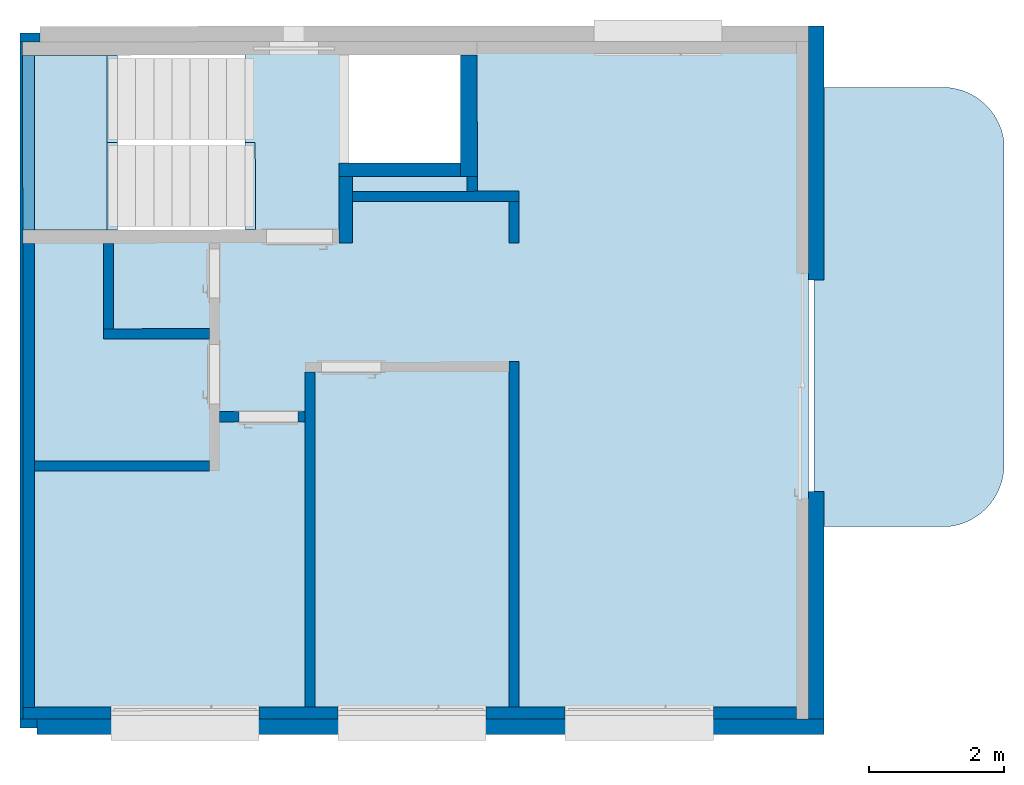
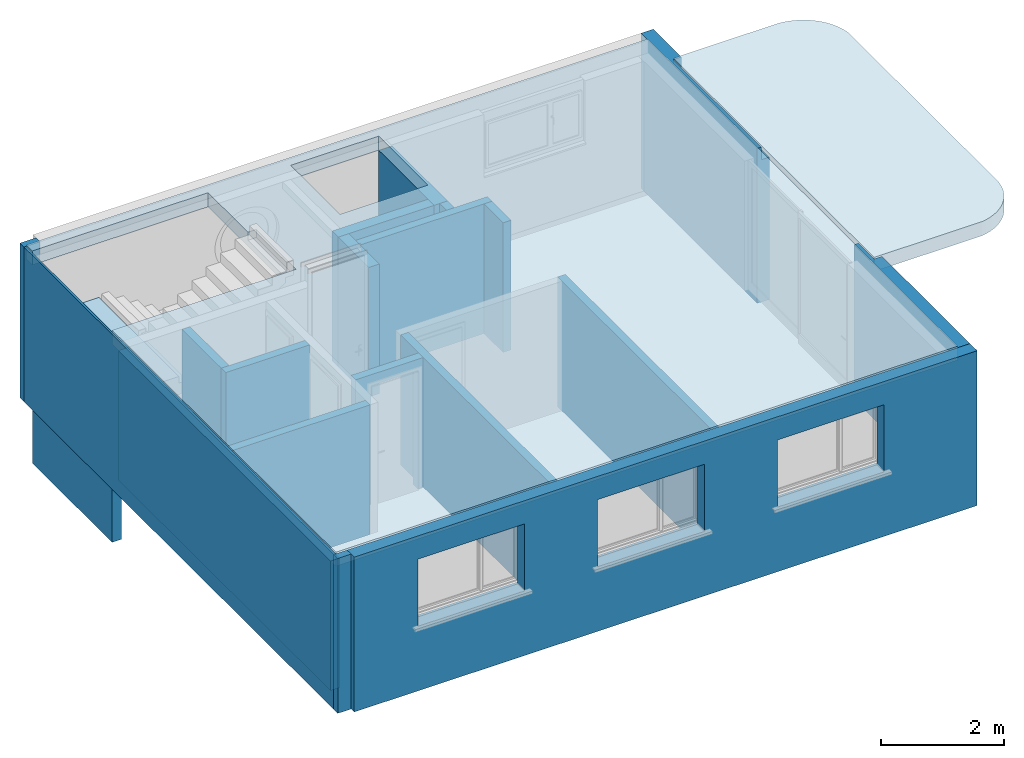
# One storey, part 1 of 9: 21 walls, 3 slabs, 12 openings.
"""IFC2X3 building model written with IfcOpenShell, lengths in metres."""

from ifc_helpers import new_model, entity, si_unit, converted_unit, derived_unit, direction, frame, frame_2d, origin, origin_with_axes, place, context, subcontext, project, spatial, polyline, rectangle, outline, extrude, clip, bounded_halfspace, faceted_brep, material, layer, layer_set, layer_usage, element, save


model = new_model("IFC2X3")

# Units and contexts
model_context = context("Model", 3, precision=1e-05, world=origin(), true_north=direction((0.772621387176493, -0.634867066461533)))
body_context = subcontext(model_context, "Body", "Model", "MODEL_VIEW")
ifc_project = project(units=[si_unit("LENGTHUNIT", "METRE"), si_unit("AREAUNIT", "SQUARE_METRE"), si_unit("VOLUMEUNIT", "CUBIC_METRE"), si_unit("MASSUNIT", "GRAM", prefix="KILO"), converted_unit("PLANEANGLEUNIT", "DEGREE", entity("IfcPlaneAngleMeasure", 0.0174532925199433), si_unit("PLANEANGLEUNIT", "RADIAN"), dimensions=[0, 0, 0, 0, 0, 0, 0]), derived_unit("THERMALTRANSMITTANCEUNIT", [(si_unit("POWERUNIT", "WATT"), 1), (si_unit("THERMODYNAMICTEMPERATUREUNIT", "KELVIN"), -1), (si_unit("LENGTHUNIT", "METRE"), -2)]), derived_unit("VOLUMETRICFLOWRATEUNIT", [(si_unit("LENGTHUNIT", "METRE"), 3), (converted_unit("TIMEUNIT", "hour", entity("IfcTimeMeasure", 3600.0), si_unit("TIMEUNIT", "SECOND"), dimensions=[0, 0, 1, 0, 0, 0, 0]), -1), (si_unit("LENGTHUNIT", "METRE"), -1)])], contexts=[model_context])

# Site, building, storey
site_placement = place(None, origin())
site = spatial("IfcSite", under=ifc_project, at=site_placement, Name="Modelle auf dem Nullpunkt", CompositionType="ELEMENT")
building_placement = place(site_placement, origin())
building = spatial("IfcBuilding", under=site, at=building_placement, Name="I", CompositionType="ELEMENT")
storey_placement = place(building_placement, origin())
storey = spatial("IfcBuildingStorey", under=building, at=storey_placement, Name="1.OG", CompositionType="ELEMENT", Elevation=0.0)

# Slab, openings
ifc_material_1 = material(Name="Béton")
slab_1_placement = place(storey_placement, frame((29.3670184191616, -0.65338574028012, 439.955)))
slab_1 = element("IfcSlab", 1, at=slab_1_placement, inside=storey, material=ifc_material_1, PredefinedType="FLOOR", context=body_context, shape_type="SweptSolid", body=[
    extrude(rectangle(XDim=1.4053348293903, YDim=2.5899999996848, at=frame_2d((-0.702209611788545, -1.29524829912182), x_axis=(-0.999999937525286, -0.000353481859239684))), frame((1.40533474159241, 2.59049659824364, 0.0), z_axis=(0.0, 0.0, 1.0), x_axis=(1.0, 0.0, 0.0)), (0.0, 0.0, 1.0), 0.36),
])
opening_1_placement = place(slab_1_placement, frame((1.25078809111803, 0.000441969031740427, 0.228336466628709)))
element("IfcOpeningElement", 2, at=opening_1_placement, cuts=slab_1, Name="Beton", ObjectType="Recess", context=body_context, shape_type="SweptSolid", body=[
    extrude(rectangle(XDim=0.15500446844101, YDim=1.29499999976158, at=frame_2d((0.0, 0.0), x_axis=(3.38549642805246e-10, -1.0))), frame((0.0777310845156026, 0.647527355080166, 6.17373972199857e-05), z_axis=(0.000796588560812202, 2.8157962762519e-07, 0.999999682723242), x_axis=(0.000353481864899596, -0.999999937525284, 0.0)), (0.0, -0.00079658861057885, 0.999999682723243), 0.131663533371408),
])
opening_2_placement = place(slab_1_placement, frame((1.25033033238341, 1.29544188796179, 0.131965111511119)))
element("IfcOpeningElement", 3, at=opening_2_placement, cuts=slab_1, Name="Beton", ObjectType="Recess", context=body_context, shape_type="SweptSolid", body=[
    extrude(rectangle(XDim=0.155004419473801, YDim=1.2949999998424, at=frame_2d((0.0, 0.0), x_axis=(-0.999999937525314, -0.000353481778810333))), frame((0.0777310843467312, 0.647527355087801, 0.0), z_axis=(0.0, 0.0, 1.0), x_axis=(1.0, 0.0, 0.0)), (0.0, 0.0, 1.0), 0.228034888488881),
])

# Slab
ifc_material_2 = material(Name="Béton")
slab_2_placement = place(storey_placement, frame((41.107187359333, -5.0542355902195, 441.39)))
element("IfcSlab", 4, at=slab_2_placement, inside=storey, material=ifc_material_2, PredefinedType="FLOOR", context=body_context, shape_type="SweptSolid", body=[
    extrude(outline(polyline([(2.8220055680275, 0.841745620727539), (2.82028137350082, 5.719491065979), (2.81380840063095, 5.76026651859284), (2.8055125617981, 5.8007105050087), (2.79541056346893, 5.84074157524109), (2.78352274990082, 5.88027911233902), (2.76987306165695, 5.91924349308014), (2.75448898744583, 5.95755624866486), (2.73740150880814, 5.99514022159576), (2.7186450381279, 6.03191972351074), (2.69825734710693, 6.06782068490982), (2.67627949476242, 6.10277080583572), (2.65275574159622, 6.13669970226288), (2.62773346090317, 6.16953904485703), (2.6012630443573, 6.20122270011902), (2.57339779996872, 6.23168686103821), (2.54419384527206, 6.26087017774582), (2.51370999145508, 6.28871387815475), (2.48200763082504, 6.3151618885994), (2.44915060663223, 6.34016094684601), (2.41520508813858, 6.36366070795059), (2.38023943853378, 6.3856138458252), (2.34432407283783, 6.40597615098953), (2.30753132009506, 6.424706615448), (2.26993527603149, 6.44176751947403), (2.23161165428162, 6.45712450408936), (2.19263763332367, 6.47074664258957), (2.15309170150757, 6.48260650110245), (2.11305349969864, 6.49268019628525), (2.07260365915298, 6.50094744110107), (1.97925102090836, 6.51569922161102), (0.0, 6.51499959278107), (0.00230293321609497, 0.0), (2.02579741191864, 0.000715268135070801), (2.06657286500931, 0.00718824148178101), (2.10701685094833, 0.0154840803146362), (2.14704792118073, 0.0255860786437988), (2.18658545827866, 0.0374738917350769), (2.22554983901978, 0.0511235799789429), (2.26386259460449, 0.0665076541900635), (2.30144656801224, 0.0835951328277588), (2.33822606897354, 0.102351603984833), (2.37412703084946, 0.122739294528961), (2.40907715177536, 0.144717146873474), (2.44300604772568, 0.168240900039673), (2.47584539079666, 0.193263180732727), (2.50752904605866, 0.219733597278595), (2.53799320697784, 0.247598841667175), (2.56717652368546, 0.276802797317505), (2.59502022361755, 0.30728664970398), (2.62146823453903, 0.338989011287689), (2.64646729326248, 0.371846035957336), (2.66996705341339, 0.405791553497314), (2.69192019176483, 0.440757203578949), (2.71228249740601, 0.476672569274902), (2.73101296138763, 0.513465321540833), (2.7480738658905, 0.551061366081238), (2.76343085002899, 0.589384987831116), (2.77705298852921, 0.628359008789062), (2.78891284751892, 0.667904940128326), (2.79898654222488, 0.707943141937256), (2.80725378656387, 0.748392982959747), (2.8220055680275, 0.841745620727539)])), origin_with_axes(), (0.0, 0.0, 1.0), 0.28),
])

# Slab, openings
ifc_material_3 = material(Name="Béton")
slab_3_placement = place(storey_placement, frame((29.3669477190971, -7.91338528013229, 441.39)))
slab_3 = element("IfcSlab", 5, at=slab_3_placement, inside=storey, material=ifc_material_3, PredefinedType="FLOOR", context=body_context, shape_type="SweptSolid", body=[
    extrude(outline(polyline([(0.0, 10.0499993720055), (0.00355249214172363, 0.0), (11.6635517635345, 0.00412159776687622), (11.6599992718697, 10.0541209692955), (0.0, 10.0499993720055)]), holes=[polyline([(4.84507039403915, 9.85171200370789), (6.49507029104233, 9.85229524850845), (6.49563586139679, 8.25229534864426), (4.84563596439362, 8.25171210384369), (4.84507039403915, 9.85171200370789)])]), origin_with_axes(), (0.0, 0.0, 1.0), 0.28),
])
opening_3_placement = place(slab_3_placement, frame((0.000468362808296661, 7.25999954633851, 0.0)))
element("IfcOpeningElement", 6, at=opening_3_placement, cuts=slab_3, Name="Deckendurchbruch", ObjectType="Opening", context=body_context, shape_type="SweptSolid", body=[
    extrude(rectangle(XDim=3.29539717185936, YDim=1.46499999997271, at=frame_2d((0.0, 0.0), x_axis=(-0.999999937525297, -0.000353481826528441))), frame((1.64795740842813, 0.733082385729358, 0.0), z_axis=(0.0, 0.0, 1.0), x_axis=(1.0, 0.0, 0.0)), (0.0, 0.0, 1.0), 0.28),
])
opening_4_placement = place(slab_3_placement, frame((7.06961154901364e-05, 8.72499945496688, 0.0)))
element("IfcOpeningElement", 7, at=opening_4_placement, cuts=slab_3, Name="Deckendurchbruch", ObjectType="Opening", context=body_context, shape_type="SweptSolid", body=[
    extrude(rectangle(XDim=3.29539717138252, YDim=1.1249999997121, at=frame_2d((0.0, 0.0), x_axis=(-0.999999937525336, -0.000353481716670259))), frame((1.64789731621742, 0.563082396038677, 0.0), z_axis=(0.0, 0.0, 1.0), x_axis=(1.0, 0.0, 0.0)), (0.0, 0.0, 1.0), 0.28),
])
opening_5_placement = place(slab_3_placement, frame((3.29591418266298, 7.26116440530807, 0.122012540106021)))
element("IfcOpeningElement", 8, at=opening_5_placement, cuts=slab_3, Name="Beton", ObjectType="Recess", context=body_context, shape_type="SweptSolid", body=[
    extrude(rectangle(XDim=0.155000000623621, YDim=1.29499999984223, at=frame_2d((0.0, 0.0), x_axis=(-0.999999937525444, -0.000353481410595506))), frame((0.0777288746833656, 0.647527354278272, 0.0), z_axis=(0.0, 0.0, 1.0), x_axis=(1.0, 0.0, 0.0)), (0.0, 0.0, 1.0), 0.157987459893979),
])

# Walls
ifc_material_4 = material(Name="Béton")
ifc_layer_1 = layer(ifc_material_4, 0.249999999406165)
ifc_layer_set_1 = layer_set([ifc_layer_1])
ifc_layer_usage_1 = layer_usage(ifc_layer_set_1, "AXIS2", "POSITIVE", -4.22370471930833e-16)
wall_1_placement = place(storey_placement, frame((36.1126542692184, 0.138998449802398, 438.82), z_axis=(0.0, 0.0, 1.0), x_axis=(-0.000353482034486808, 0.999999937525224, 0.0)))
element("IfcWallStandardCase", 9, at=wall_1_placement, inside=storey, material=ifc_layer_usage_1, Name="Betonwand", context=body_context, shape_type="SweptSolid", body=[
    extrude(rectangle(XDim=1.79999999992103, YDim=0.249999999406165, at=frame_2d((0.899999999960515, 0.124999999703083), x_axis=(1.0, 0.0))), origin_with_axes(), (0.0, 0.0, 1.0), 2.57),
])
ifc_material_5 = material(Name="Béton")
ifc_layer_2 = layer(ifc_material_5, 0.199999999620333)
ifc_layer_set_2 = layer_set([ifc_layer_2])
ifc_layer_usage_2 = layer_usage(ifc_layer_set_2, "AXIS2", "POSITIVE", -9.19403442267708e-17)
wall_2_placement = place(storey_placement, frame((35.8625835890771, 0.338910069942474, 438.82), z_axis=(0.0, 0.0, 1.0), x_axis=(-0.999999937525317, -0.000353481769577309, 0.0)))
element("IfcWallStandardCase", 10, at=wall_2_placement, inside=storey, material=ifc_layer_usage_2, Name="Betonwand", context=body_context, shape_type="SweptSolid", body=[
    extrude(rectangle(XDim=1.79999999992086, YDim=0.199999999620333, at=frame_2d((0.89999999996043, 0.0999999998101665), x_axis=(1.0, 0.0))), origin_with_axes(), (0.0, 0.0, 1.0), 2.57),
])
ifc_material_6 = material(Name="Brique")
ifc_layer_3 = layer(ifc_material_6, 0.15000000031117)
ifc_layer_set_3 = layer_set([ifc_layer_3])
ifc_layer_usage_3 = layer_usage(ifc_layer_set_3, "AXIS2", "POSITIVE", -7.34065586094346e-17)
wall_3_placement = place(storey_placement, frame((36.7327319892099, -0.0807823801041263, 438.82), z_axis=(0.0, 0.0, 1.0), x_axis=(-0.999999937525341, -0.000353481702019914, 0.0)))
element("IfcWallStandardCase", 11, at=wall_3_placement, inside=storey, material=ifc_layer_usage_3, context=body_context, shape_type="SweptSolid", body=[
    extrude(rectangle(XDim=2.46999999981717, YDim=0.15000000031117, at=frame_2d((1.23499999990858, 0.075000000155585), x_axis=(1.0, 0.0))), origin_with_axes(), (0.0, 0.0, 1.0), 2.57),
])
ifc_material_7 = material(Name="Brique")
ifc_layer_4 = layer(ifc_material_7, 0.15000000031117)
ifc_layer_set_4 = layer_set([ifc_layer_4])
ifc_layer_usage_4 = layer_usage(ifc_layer_set_4, "AXIS2", "POSITIVE", -4.3481201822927e-17)
wall_4_placement = place(storey_placement, frame((36.112732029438, -0.081001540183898, 438.82), z_axis=(0.0, 0.0, 1.0), x_axis=(-0.00035347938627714, 0.99999993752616, 0.0)))
element("IfcWallStandardCase", 12, at=wall_4_placement, inside=storey, material=ifc_layer_usage_4, context=body_context, shape_type="SweptSolid", body=[
    extrude(rectangle(XDim=0.21999999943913, YDim=0.15000000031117, at=frame_2d((0.109999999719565, 0.075000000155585), x_axis=(1.0, 0.0))), origin_with_axes(), (0.0, 0.0, 1.0), 2.57),
])
ifc_material_8 = material(Name="Béton")
ifc_layer_5 = layer(ifc_material_8, 0.200000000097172)
ifc_layer_set_5 = layer_set([ifc_layer_5])
ifc_layer_usage_5 = layer_usage(ifc_layer_set_5, "AXIS2", "POSITIVE", -2.33688068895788e-16)
wall_5_placement = place(storey_placement, frame((34.0626543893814, 0.138273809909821, 438.82), z_axis=(0.0, 0.0, 1.0), x_axis=(0.000353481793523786, -0.999999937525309, 0.0)))
element("IfcWallStandardCase", 13, at=wall_5_placement, inside=storey, material=ifc_layer_usage_5, Name="Betonwand", context=body_context, shape_type="SweptSolid", body=[
    extrude(rectangle(XDim=0.990000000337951, YDim=0.200000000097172, at=frame_2d((0.495000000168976, 0.100000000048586), x_axis=(1.0, 0.0))), origin_with_axes(), (0.0, 0.0, 1.0), 2.57),
])
ifc_material_9 = material(Name="Brique")
ifc_layer_6 = layer(ifc_material_9, 0.149999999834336)
ifc_layer_set_6 = layer_set([ifc_layer_6])
ifc_layer_usage_6 = layer_usage(ifc_layer_set_6, "AXIS2", "POSITIVE", -4.28268531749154e-16)
wall_6_placement = place(storey_placement, frame((36.5827850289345, -0.230835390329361, 438.82), z_axis=(0.0, 0.0, 1.0), x_axis=(0.000353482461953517, -0.999999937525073, 0.0)))
element("IfcWallStandardCase", 14, at=wall_6_placement, inside=storey, material=ifc_layer_usage_6, context=body_context, shape_type="SweptSolid", body=[
    extrude(rectangle(XDim=0.619999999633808, YDim=0.149999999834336, at=frame_2d((0.309999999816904, 0.0749999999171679), x_axis=(1.0, 0.0))), origin_with_axes(), (0.0, 0.0, 1.0), 2.57),
])
ifc_material_10 = material(Name="Isolation périphérique")
ifc_layer_7 = layer(ifc_material_10, 0.130000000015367)
ifc_layer_set_7 = layer_set([ifc_layer_7])
ifc_layer_usage_7 = layer_usage(ifc_layer_set_7, "AXIS2", "POSITIVE", -3.04754372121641e-16)
wall_7_placement = place(storey_placement, frame((29.3269477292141, 2.13659994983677, 438.57), z_axis=(0.0, 0.0, 1.0), x_axis=(0.999999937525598, 0.000353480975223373, 0.0)))
element("IfcWallStandardCase", 15, at=wall_7_placement, inside=storey, material=ifc_layer_usage_7, context=body_context, shape_type="SweptSolid", body=[
    extrude(rectangle(XDim=0.299999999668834, YDim=0.130000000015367, at=frame_2d((0.149999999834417, 0.0650000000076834), x_axis=(1.0, 0.0))), origin_with_axes(), (0.0, 0.0, 1.0), 3.07),
])
ifc_material_11 = material(Name="Brique")
ifc_layer_8 = layer(ifc_material_11, 0.150000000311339)
ifc_layer_set_8 = layer_set([ifc_layer_8])
ifc_layer_usage_8 = layer_usage(ifc_layer_set_8, "AXIS2", "POSITIVE", -8.40078874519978e-17)
wall_8_placement = place(storey_placement, frame((32.1384529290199, -2.12112780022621, 438.82), z_axis=(0.0, 0.0, 1.0), x_axis=(-0.999999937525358, -0.000353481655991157, 0.0)))
element("IfcWallStandardCase", 16, at=wall_8_placement, inside=storey, material=ifc_layer_usage_8, context=body_context, shape_type="SweptSolid", body=[
    extrude(rectangle(XDim=1.57500000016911, YDim=0.150000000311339, at=frame_2d((0.787500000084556, 0.0750000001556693), x_axis=(1.0, 0.0))), origin_with_axes(), (0.0, 0.0, 1.0), 2.57),
])
ifc_material_12 = material(Name="Brique")
ifc_layer_9 = layer(ifc_material_12, 0.149999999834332)
ifc_layer_set_9 = layer_set([ifc_layer_9])
ifc_layer_usage_9 = layer_usage(ifc_layer_set_9, "AXIS2", "POSITIVE", -2.27293288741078e-16)
wall_9_placement = place(storey_placement, frame((30.5630045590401, -0.852963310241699, 438.82), z_axis=(0.0, 0.0, 1.0), x_axis=(0.000353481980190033, -0.999999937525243, 0.0)))
element("IfcWallStandardCase", 17, at=wall_9_placement, inside=storey, material=ifc_layer_usage_9, context=body_context, shape_type="SweptSolid", body=[
    extrude(rectangle(XDim=1.268721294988, YDim=0.149999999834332, at=frame_2d((0.634360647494, 0.0749999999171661), x_axis=(1.0, 0.0))), origin_with_axes(), (0.0, 0.0, 1.0), 2.57),
])
ifc_material_13 = material(Name="Brique")
ifc_layer_10 = layer(ifc_material_13, 0.149999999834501)
ifc_layer_set_10 = layer_set([ifc_layer_10])
ifc_layer_usage_10 = layer_usage(ifc_layer_set_10, "AXIS2", "POSITIVE", 0.0)
wall_10_placement = place(storey_placement, frame((29.5441993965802, -4.233323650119, 438.82), z_axis=(0.0, 0.0, 1.0), x_axis=(0.999999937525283, 0.000353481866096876, 0.0)))
element("IfcWallStandardCase", 18, at=wall_10_placement, inside=storey, material=ifc_layer_usage_10, context=body_context, shape_type="SweptSolid", body=[
    extrude(rectangle(XDim=2.5949999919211, YDim=0.149999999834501, at=frame_2d((1.29749999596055, 0.0749999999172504), x_axis=(1.0, 0.0))), origin_with_axes(), (0.0, 0.0, 1.0), 2.57),
])
ifc_material_14 = material(Name="Isolation périphérique")
ifc_layer_11 = layer(ifc_material_14, 0.0399999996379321)
ifc_layer_set_11 = layer_set([ifc_layer_11])
ifc_layer_usage_11 = layer_usage(ifc_layer_set_11, "AXIS2", "POSITIVE", -3.61374635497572e-17)
wall_11_placement = place(storey_placement, frame((29.3705002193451, -7.91338528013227, 438.57), z_axis=(0.0, 0.0, 1.0), x_axis=(-0.000353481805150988, 0.999999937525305, 0.0)))
element("IfcWallStandardCase", 19, at=wall_11_placement, inside=storey, material=ifc_layer_usage_11, context=body_context, shape_type="SweptSolid", body=[
    extrude(rectangle(XDim=10.0499999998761, YDim=0.0399999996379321, at=frame_2d((5.02499999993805, 0.019999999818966), x_axis=(1.0, 0.0))), origin_with_axes(), (0.0, 0.0, 1.0), 3.07),
])
ifc_material_15 = material(Name="Isolation périphérique")
ifc_layer_12 = layer(ifc_material_15, 0.129999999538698)
ifc_layer_set_12 = layer_set([ifc_layer_12])
ifc_layer_usage_12 = layer_usage(ifc_layer_set_12, "AXIS2", "POSITIVE", -1.80837767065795e-19)
wall_12_placement = place(storey_placement, frame((29.5805001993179, -7.91331105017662, 438.57), z_axis=(0.0, 0.0, 1.0), x_axis=(-0.999999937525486, -0.000353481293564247, 0.0)))
element("IfcWallStandardCase", 20, at=wall_12_placement, inside=storey, material=ifc_layer_usage_12, context=body_context, shape_type="SweptSolid", body=[
    extrude(rectangle(XDim=0.249999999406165, YDim=0.129999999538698, at=frame_2d((0.124999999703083, 0.064999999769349), x_axis=(1.0, 0.0))), origin_with_axes(), (0.0, 0.0, 1.0), 3.07),
])
ifc_material_16 = material(Name="Brique")
ifc_layer_13 = layer(ifc_material_16, 0.17499999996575)
ifc_layer_set_13 = layer_set([ifc_layer_13])
ifc_layer_usage_13 = layer_usage(ifc_layer_set_13, "AXIS2", "POSITIVE", -1.57449733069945e-16)
wall_13_placement = place(storey_placement, frame((29.3680046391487, -0.853385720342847, 438.82), z_axis=(0.0, 0.0, 1.0), x_axis=(0.000353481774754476, -0.999999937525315, 0.0)))
element("IfcWallStandardCase", 21, at=wall_13_placement, inside=storey, material=ifc_layer_usage_13, context=body_context, shape_type="SweptSolid", body=[
    extrude(rectangle(XDim=6.88500000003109, YDim=0.17499999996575, at=frame_2d((3.44250000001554, 0.0874999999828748), x_axis=(1.0, 0.0))), origin_with_axes(), (0.0, 0.0, 1.0), 2.57),
])
ifc_material_17 = material(Name="Brique")
ifc_layer_14 = layer(ifc_material_17, 0.149999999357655)
ifc_layer_set_14 = layer_set([ifc_layer_14])
ifc_layer_usage_14 = layer_usage(ifc_layer_set_14, "AXIS2", "POSITIVE", -1.47559669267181e-16)
wall_14_placement = place(storey_placement, frame((36.7354378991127, -7.7357819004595, 438.82), z_axis=(0.0, 0.0, 1.0), x_axis=(-0.000353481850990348, 0.999999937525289, 0.0)))
element("IfcWallStandardCase", 22, at=wall_14_placement, inside=storey, material=ifc_layer_usage_14, context=body_context, shape_type="SweptSolid", body=[
    extrude(rectangle(XDim=5.12499999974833, YDim=0.149999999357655, at=frame_2d((2.56249999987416, 0.0749999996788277), x_axis=(1.0, 0.0))), origin_with_axes(), (0.0, 0.0, 1.0), 2.57),
])
ifc_material_18 = material(Name="Brique")
ifc_layer_15 = layer(ifc_material_18, 0.149999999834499)
ifc_layer_set_15 = layer_set([ifc_layer_15])
ifc_layer_usage_15 = layer_usage(ifc_layer_set_15, "AXIS2", "POSITIVE", 0.0)
wall_15_placement = place(storey_placement, frame((33.5536795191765, -2.76190628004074, 438.82), z_axis=(0.0, 0.0, 1.0), x_axis=(0.000353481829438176, -0.999999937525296, 0.0)))
element("IfcWallStandardCase", 23, at=wall_15_placement, inside=storey, material=ifc_layer_usage_15, context=body_context, shape_type="SweptSolid", body=[
    extrude(rectangle(XDim=4.97500000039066, YDim=0.149999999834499, at=frame_2d((2.48750000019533, 0.0749999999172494), x_axis=(1.0, 0.0))), origin_with_axes(), (0.0, 0.0, 1.0), 2.57),
])
ifc_material_19 = material(Name="Isolation périphérique")
ifc_layer_16 = layer(ifc_material_19, 0.230000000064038)
ifc_layer_set_16 = layer_set([ifc_layer_16])
ifc_layer_usage_16 = layer_usage(ifc_layer_set_16, "AXIS2", "POSITIVE", -1.82091822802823e-15)
wall_16_placement = place(storey_placement, frame((41.2604994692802, -7.90918239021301, 438.57), z_axis=(0.0, 0.0, 1.0), x_axis=(-0.000353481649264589, 0.99999993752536, 0.0)))
element("IfcWallStandardCase", 24, at=wall_16_placement, inside=storey, material=ifc_layer_usage_16, context=body_context, shape_type="Clipping", body=[
    clip(extrude(rectangle(XDim=3.37000000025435, YDim=0.230000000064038, at=frame_2d((1.68500000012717, 0.115000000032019), x_axis=(1.0, 0.0))), origin_with_axes(), (0.0, 0.0, 1.0), 3.07), bounded_halfspace(frame((3.11250000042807, 0.0749999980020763, 2.81999999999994), z_axis=(0.0, 0.0, -1.0), x_axis=(-3.71716641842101e-11, -1.0, 0.0)), True, origin_with_axes(), polyline([(2.85500000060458, 0.149999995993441), (2.85500000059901, 0.0), (3.37000000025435, 0.0), (3.37000000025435, 0.14999999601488), (2.85500000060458, 0.149999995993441)]))),
])
ifc_material_20 = material(Name="Isolation périphérique")
ifc_layer_17 = layer(ifc_material_20, 0.230000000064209)
ifc_layer_set_17 = layer_set([ifc_layer_17])
ifc_layer_usage_17 = layer_usage(ifc_layer_set_17, "AXIS2", "POSITIVE", 0.0)
wall_17_placement = place(storey_placement, frame((41.2581983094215, -1.39918279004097, 438.57), z_axis=(0.0, 0.0, 1.0), x_axis=(-0.000353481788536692, 0.999999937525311, 0.0)))
element("IfcWallStandardCase", 25, at=wall_17_placement, inside=storey, material=ifc_layer_usage_17, context=body_context, shape_type="Clipping", body=[
    clip(extrude(rectangle(XDim=3.76999999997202, YDim=0.230000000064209, at=frame_2d((1.88499999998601, 0.115000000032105), x_axis=(1.0, 0.0))), origin_with_axes(), (0.0, 0.0, 1.0), 3.07), bounded_halfspace(frame((1.42999999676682, 0.0750000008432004, 2.81999999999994), z_axis=(0.0, 0.0, -1.0), x_axis=(-1.0, 9.76453201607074e-11, 0.0)), True, origin_with_axes(), polyline([(2.85999999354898, 0.15000000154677), (0.0, 0.150000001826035), (0.0, 0.0), (2.85999999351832, 0.0), (2.85999999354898, 0.15000000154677)]))),
])
ifc_material_21 = material(Name="Brique")
ifc_layer_18 = layer(ifc_material_21, 0.175000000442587)
ifc_layer_set_18 = layer_set([ifc_layer_18])
ifc_layer_usage_18 = layer_usage(ifc_layer_set_18, "AXIS2", "POSITIVE", -1.13686830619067e-16)
wall_18_placement = place(storey_placement, frame((29.5429339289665, -0.653323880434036, 437.465), z_axis=(0.0, 0.0, 1.0), x_axis=(-0.000353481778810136, 0.999999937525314, 0.0)))
element("IfcWallStandardCase", 26, at=wall_18_placement, inside=storey, material=ifc_layer_usage_18, context=body_context, shape_type="SweptSolid", body=[
    extrude(rectangle(XDim=2.5899999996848, YDim=0.175000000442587, at=frame_2d((1.2949999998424, 0.0875000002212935), x_axis=(1.0, 0.0))), origin_with_axes(), (0.0, 0.0, 1.0), 2.49),
])

# Wall, openings
ifc_material_22 = material(Name="Brique")
wall_19_placement = place(storey_placement, frame((29.3704383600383, -7.91338528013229, 438.82)))
wall_19 = element("IfcWall", 27, at=wall_19_placement, inside=storey, material=ifc_material_22, context=body_context, shape_type="Brep", body=[
    faceted_brep([(6.18593067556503e-05, 0.0, 0.0), (0.0, 0.174999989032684, 0.0), (0.0, 0.174999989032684, 2.57), (6.18593067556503e-05, 0.0, 2.57), (11.4799992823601, 0.179057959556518, 0.0), (11.4799992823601, 0.179057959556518, 2.57), (11.4800611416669, 0.00405797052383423, 0.0), (11.4800611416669, 0.00405797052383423, 2.57)], [[[0, 1, 2, 3]], [[1, 4, 5, 2]], [[4, 6, 7, 5]], [[6, 0, 3, 7]], [[3, 2, 5, 7]], [[0, 6, 4, 1]]], orient=[[False], [False], [False], [False], [False], [False]]),
])
opening_6_placement = place(wall_19_placement, frame((1.30499991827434, 0.000461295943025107, 0.93)))
element("IfcOpeningElement", 28, at=opening_6_placement, cuts=wall_19, ObjectType="Opening", context=body_context, shape_type="Brep", body=[
    faceted_brep([(2.19999986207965, 0.175777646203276, 0.0), (2.19999986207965, 0.175777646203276, 1.64), (0.0, 0.174999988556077, 1.64), (0.0, 0.174999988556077, 0.0), (2.20006172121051, 0.000777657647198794, 0.0), (6.1859130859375e-05, 0.0, 0.0), (6.1859130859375e-05, 0.0, 1.64), (2.20006172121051, 0.000777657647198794, 1.64)], [[[0, 1, 2, 3]], [[4, 5, 6, 7]], [[3, 5, 4, 0]], [[2, 6, 5, 3]], [[1, 7, 6, 2]], [[0, 4, 7, 1]]], orient=[[False], [False], [False], [False], [False], [False]]),
])
opening_7_placement = place(wall_19_placement, frame((4.67499970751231, 0.00165252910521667, 0.93)))
element("IfcOpeningElement", 29, at=opening_7_placement, cuts=wall_19, ObjectType="Opening", context=body_context, shape_type="Brep", body=[
    faceted_brep([(2.1999998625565, 0.175777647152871, 0.0), (2.1999998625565, 0.175777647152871, 1.64), (0.0, 0.174999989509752, 1.64), (0.0, 0.174999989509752, 0.0), (2.20006172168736, 0.000777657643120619, 0.0), (6.1859130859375e-05, 0.0, 0.0), (6.1859130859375e-05, 0.0, 1.64), (2.20006172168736, 0.000777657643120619, 1.64)], [[[0, 1, 2, 3]], [[4, 5, 6, 7]], [[3, 5, 4, 0]], [[2, 6, 5, 3]], [[1, 7, 6, 2]], [[0, 4, 7, 1]]], orient=[[False], [False], [False], [False], [False], [False]]),
])
opening_8_placement = place(wall_19_placement, frame((8.044999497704, 0.00284376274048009, 0.93)))
element("IfcOpeningElement", 30, at=opening_8_placement, cuts=wall_19, ObjectType="Opening", context=body_context, shape_type="Brep", body=[
    faceted_brep([(2.19999986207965, 0.175777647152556, 0.0), (2.19999986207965, 0.175777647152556, 1.64), (0.0, 0.174999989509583, 1.64), (0.0, 0.174999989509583, 0.0), (2.20006172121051, 0.000777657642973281, 0.0), (6.1859130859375e-05, 0.0, 0.0), (6.1859130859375e-05, 0.0, 1.64), (2.20006172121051, 0.000777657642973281, 1.64)], [[[0, 1, 2, 3]], [[4, 5, 6, 7]], [[3, 5, 4, 0]], [[2, 6, 5, 3]], [[1, 7, 6, 2]], [[0, 4, 7, 1]]], orient=[[False], [False], [False], [False], [False], [False]]),
])

# Wall, opening
ifc_material_23 = material(Name="Brique")
wall_20_placement = place(storey_placement, frame((32.288888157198, -3.50235339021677, 438.82)))
wall_20 = element("IfcWall", 31, at=wall_20_placement, inside=storey, material=ifc_material_23, context=body_context, shape_type="Brep", body=[
    faceted_brep([(5.30222471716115e-05, 0.0, 0.0), (0.0, 0.149999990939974, 0.0), (0.0, 0.149999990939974, 2.57), (5.30222471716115e-05, 0.0, 2.57), (1.26499992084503, 0.150447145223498, 0.0), (1.26499992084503, 0.150447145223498, 2.57), (1.2650529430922, 0.00044715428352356, 0.0), (1.2650529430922, 0.00044715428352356, 2.57)], [[[0, 1, 2, 3]], [[1, 4, 5, 2]], [[4, 6, 7, 5]], [[6, 0, 3, 7]], [[3, 2, 5, 7]], [[0, 6, 4, 1]]], orient=[[False], [False], [False], [False], [False], [False]]),
])
opening_9_placement = place(wall_20_placement, frame((0.28499998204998, 0.000100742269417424, 0.0)))
element("IfcOpeningElement", 32, at=opening_9_placement, cuts=wall_20, ObjectType="Opening", context=body_context, shape_type="Brep", body=[
    faceted_brep([(0.880052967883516, 0.000311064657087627, 0.0), (5.30223846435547e-05, 0.0, 0.0), (5.30223846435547e-05, 0.0, 2.35), (0.880052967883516, 0.000311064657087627, 2.35), (0.879999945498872, 0.150311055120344, 0.0), (0.879999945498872, 0.150311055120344, 2.35), (0.0, 0.149999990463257, 2.35), (0.0, 0.149999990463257, 0.0)], [[[0, 1, 2, 3]], [[4, 5, 6, 7]], [[1, 0, 4, 7]], [[2, 1, 7, 6]], [[3, 2, 6, 5]], [[0, 3, 5, 4]]], orient=[[False], [False], [False], [False], [False], [False]]),
])

# Wall, openings
ifc_material_24 = material(Name="Isolation périphérique")
wall_21_placement = place(storey_placement, frame((29.580500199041, -8.14331104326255, 438.57)))
wall_21 = element("IfcWall", 33, at=wall_21_placement, inside=storey, material=ifc_material_24, context=body_context, shape_type="Brep", body=[
    faceted_brep([(11.6799992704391, 0.234128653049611, 0.0), (11.6800805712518, 0.00412866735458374, 0.0), (11.6800805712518, 0.00412866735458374, 3.07), (11.6799992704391, 0.234128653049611, 3.07), (8.13008126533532e-05, 0.0, 0.0), (8.13008126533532e-05, 0.0, 3.07), (0.0, 0.229999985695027, 0.0), (0.0, 0.229999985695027, 3.07)], [[[0, 1, 2, 3]], [[1, 4, 5, 2]], [[4, 6, 7, 5]], [[6, 0, 3, 7]], [[3, 2, 5, 7]], [[0, 6, 4, 1]]], orient=[[False], [False], [False], [False], [False], [False]]),
])
opening_10_placement = place(wall_21_placement, frame((1.19499992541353, 0.000422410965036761, 1.28)))
element("IfcOpeningElement", 34, at=opening_10_placement, cuts=wall_21, ObjectType="Opening", context=body_context, shape_type="Brep", body=[
    faceted_brep([(2.00008117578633, 0.000706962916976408, 0.0), (8.13007354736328e-05, 0.0, 0.0), (8.13007354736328e-05, 0.0, 1.33), (2.00008117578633, 0.000706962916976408, 1.33), (1.99999987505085, 0.230706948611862, 0.0), (1.99999987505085, 0.230706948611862, 1.33), (0.0, 0.229999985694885, 1.33), (0.0, 0.229999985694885, 0.0)], [[[0, 1, 2, 3]], [[4, 5, 6, 7]], [[1, 0, 4, 7]], [[2, 1, 7, 6]], [[3, 2, 6, 5]], [[0, 3, 5, 4]]], orient=[[False], [False], [False], [False], [False], [False]]),
])
opening_11_placement = place(wall_21_placement, frame((4.56499971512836, 0.00161364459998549, 1.28)))
element("IfcOpeningElement", 35, at=opening_11_placement, cuts=wall_21, ObjectType="Opening", context=body_context, shape_type="Brep", body=[
    faceted_brep([(2.00008117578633, 0.000706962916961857, 0.0), (8.13007354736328e-05, 0.0, 0.0), (8.13007354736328e-05, 0.0, 1.33), (2.00008117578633, 0.000706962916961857, 1.33), (1.99999987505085, 0.230706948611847, 0.0), (1.99999987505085, 0.230706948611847, 1.33), (0.0, 0.229999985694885, 1.33), (0.0, 0.229999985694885, 0.0)], [[[0, 1, 2, 3]], [[4, 5, 6, 7]], [[1, 0, 4, 7]], [[2, 1, 7, 6]], [[3, 2, 6, 5]], [[0, 3, 5, 4]]], orient=[[False], [False], [False], [False], [False], [False]]),
])
opening_12_placement = place(wall_21_placement, frame((7.93499950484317, 0.00280487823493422, 1.28)))
element("IfcOpeningElement", 36, at=opening_12_placement, cuts=wall_21, ObjectType="Opening", context=body_context, shape_type="Brep", body=[
    faceted_brep([(2.00008117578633, 0.000706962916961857, 0.0), (8.13007354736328e-05, 0.0, 0.0), (8.13007354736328e-05, 0.0, 1.33), (2.00008117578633, 0.000706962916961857, 1.33), (1.99999987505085, 0.230706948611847, 0.0), (1.99999987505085, 0.230706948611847, 1.33), (0.0, 0.229999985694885, 1.33), (0.0, 0.229999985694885, 0.0)], [[[0, 1, 2, 3]], [[4, 5, 6, 7]], [[1, 0, 4, 7]], [[2, 1, 7, 6]], [[3, 2, 6, 5]], [[0, 3, 5, 4]]], orient=[[False], [False], [False], [False], [False], [False]]),
])

save(model, "model.ifc")
